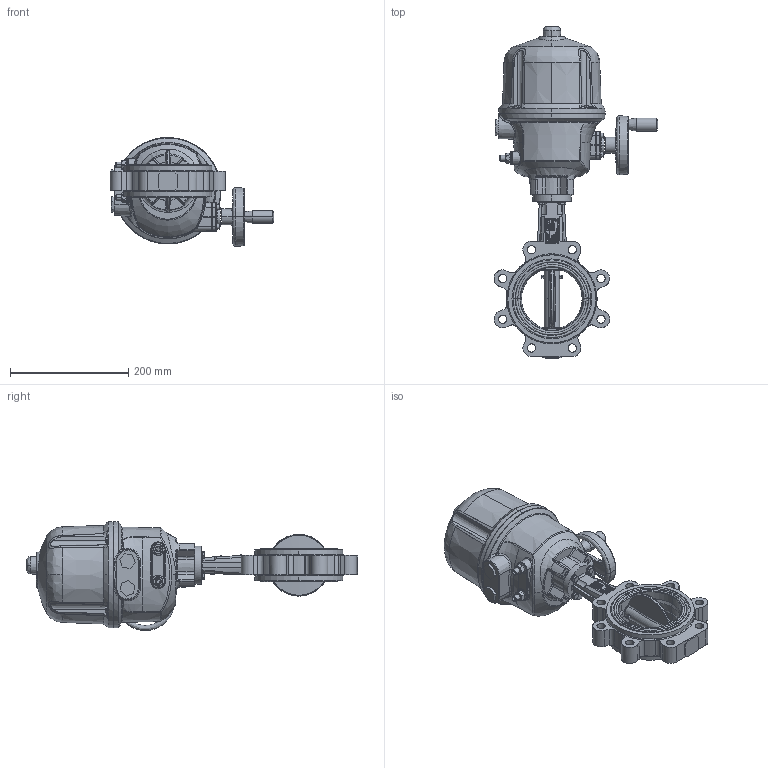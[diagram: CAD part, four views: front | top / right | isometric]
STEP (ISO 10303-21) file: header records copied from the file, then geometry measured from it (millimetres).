
FILE_DESCRIPTION (( 'STEP AP214' ), '1' );
FILE_NAME ('VPG464X-BX4XX0100.step', '2022-09-20T11:19:57', ( '' ), ( '' ), 'SwSTEP 2.0', 'SolidWorks 2020', '' );
FILE_SCHEMA (( 'AUTOMOTIVE_DESIGN' ));
Length unit declared in the file: millimetre
Products named in the file (1): VPG464X-BX4XX0100
Bounding box: 276.98 x 561.68 x 184.42 mm (x, y, z)
Surface area: 358639.5 mm2 (no closed solid volume)
Topology: 0 solids, 73 shells, 1099 faces, 5302 edges, 4150 vertices
Faces by surface type: bspline 403, plane 334, cylinder 222, cone 136, torus 4
Entity records: 104637 total; most frequent: CARTESIAN_POINT 56363, ORIENTED_EDGE 7550, DIRECTION 5436, EDGE_CURVE 5236, VERTEX_POINT 4150, LINE 2350, VECTOR 2350, B_SPLINE_CURVE_WITH_KNOTS 1955
